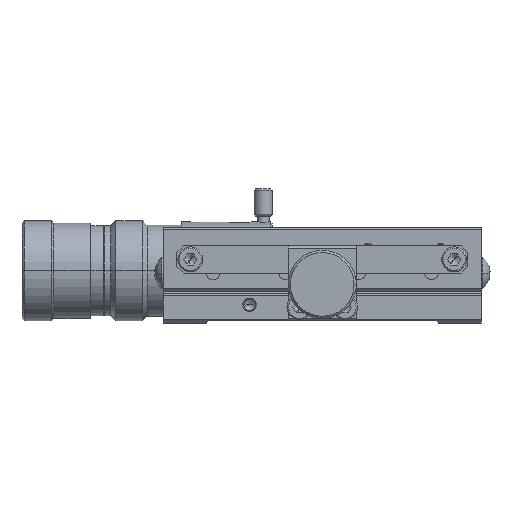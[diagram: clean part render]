
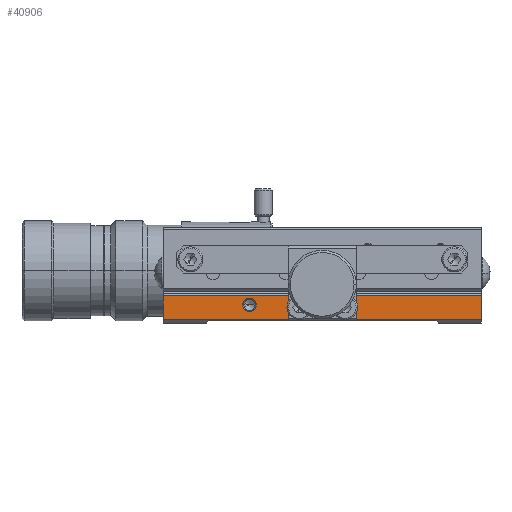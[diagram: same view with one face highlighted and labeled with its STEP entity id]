
A CAD part, left-side view. The second image highlights one B-rep face of the part: STEP entity #40906.
In plain terms, the highlighted planar face has unit normal (-1, 0, 0).
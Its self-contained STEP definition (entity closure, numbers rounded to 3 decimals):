
#29182 = CARTESIAN_POINT ( 'NONE',  ( -35., 17.5, 4. ) ) ;
#29225 = CARTESIAN_POINT ( 'NONE',  ( -35., 14.5, 4. ) ) ;
#29231 = DIRECTION ( 'NONE',  ( 0., -1., 0. ) ) ;
#29232 = DIRECTION ( 'NONE',  ( -1., 0., 0. ) ) ;
#29233 = CARTESIAN_POINT ( 'NONE',  ( -35., 16., 4. ) ) ;
#29234 = AXIS2_PLACEMENT_3D ( 'NONE', #29233, #29232, #29231 ) ;
#29235 = CIRCLE ( 'NONE', #29234, 1.5 ) ;
#30341 = CARTESIAN_POINT ( 'NONE',  ( -35., 7.5, 5.5 ) ) ;
#30342 = DIRECTION ( 'NONE',  ( 0., 0., 1. ) ) ;
#30343 = VECTOR ( 'NONE', #30342, 1000. ) ;
#30344 = CARTESIAN_POINT ( 'NONE',  ( -35., 7.5, 6. ) ) ;
#30345 = LINE ( 'NONE', #30344, #30343 ) ;
#30346 = CARTESIAN_POINT ( 'NONE',  ( -35., 7.5, 0.8 ) ) ;
#30347 = CARTESIAN_POINT ( 'NONE',  ( -35., 35., 0.8 ) ) ;
#30550 = DIRECTION ( 'NONE',  ( 0., 0., -1. ) ) ;
#30551 = VECTOR ( 'NONE', #30550, 1000. ) ;
#30552 = CARTESIAN_POINT ( 'NONE',  ( -35., 35., 6. ) ) ;
#30553 = LINE ( 'NONE', #30552, #30551 ) ;
#30574 = DIRECTION ( 'NONE',  ( 0., 0., -1. ) ) ;
#30575 = VECTOR ( 'NONE', #30574, 1000. ) ;
#30576 = CARTESIAN_POINT ( 'NONE',  ( -35., -35., 6. ) ) ;
#30577 = LINE ( 'NONE', #30576, #30575 ) ;
#30578 = CARTESIAN_POINT ( 'NONE',  ( -35., -35., 0.8 ) ) ;
#30579 = DIRECTION ( 'NONE',  ( 0., -1., 0. ) ) ;
#30580 = VECTOR ( 'NONE', #30579, 1000. ) ;
#30581 = CARTESIAN_POINT ( 'NONE',  ( -35., 35., 0.8 ) ) ;
#30582 = LINE ( 'NONE', #30581, #30580 ) ;
#30583 = CARTESIAN_POINT ( 'NONE',  ( -35., -7.5, 0.8 ) ) ;
#30584 = DIRECTION ( 'NONE',  ( 0., 0., 1. ) ) ;
#30585 = VECTOR ( 'NONE', #30584, 1000. ) ;
#30586 = CARTESIAN_POINT ( 'NONE',  ( -35., -7.5, 6. ) ) ;
#30587 = LINE ( 'NONE', #30586, #30585 ) ;
#30588 = CARTESIAN_POINT ( 'NONE',  ( -35., -7.5, 5.5 ) ) ;
#30589 = DIRECTION ( 'NONE',  ( 0., 1., 0. ) ) ;
#30590 = VECTOR ( 'NONE', #30589, 1000. ) ;
#30591 = CARTESIAN_POINT ( 'NONE',  ( -35., 35., 5.5 ) ) ;
#30592 = LINE ( 'NONE', #30591, #30590 ) ;
#30616 = DIRECTION ( 'NONE',  ( 0., -1., 0. ) ) ;
#30617 = DIRECTION ( 'NONE',  ( -1., 0., 0. ) ) ;
#30618 = AXIS2_PLACEMENT_3D ( 'NONE', #30620, #30617, #30616 ) ;
#30620 = CARTESIAN_POINT ( 'NONE',  ( -35., 35., 6. ) ) ;
#30621 = PLANE ( 'NONE',  #30618 ) ;
#30622 = FACE_OUTER_BOUND ( 'NONE', #40916, .T. ) ;
#30623 = FACE_BOUND ( 'NONE', #40909, .T. ) ;
#30632 = CARTESIAN_POINT ( 'NONE',  ( -35., 35., 6. ) ) ;
#30633 = DIRECTION ( 'NONE',  ( 0., -1., 0. ) ) ;
#30634 = VECTOR ( 'NONE', #30633, 1000. ) ;
#30635 = CARTESIAN_POINT ( 'NONE',  ( -35., 35., 6. ) ) ;
#30636 = LINE ( 'NONE', #30635, #30634 ) ;
#30637 = CARTESIAN_POINT ( 'NONE',  ( -35., -35., 6. ) ) ;
#30657 = DIRECTION ( 'NONE',  ( 0., -1., 0. ) ) ;
#30658 = VECTOR ( 'NONE', #30657, 1000. ) ;
#30659 = CARTESIAN_POINT ( 'NONE',  ( -35., 35., 0.8 ) ) ;
#30660 = LINE ( 'NONE', #30659, #30658 ) ;
#30664 = DIRECTION ( 'NONE',  ( 0., -1., 0. ) ) ;
#30665 = DIRECTION ( 'NONE',  ( -1., 0., 0. ) ) ;
#30666 = CARTESIAN_POINT ( 'NONE',  ( -35., 16., 4. ) ) ;
#30667 = AXIS2_PLACEMENT_3D ( 'NONE', #30666, #30665, #30664 ) ;
#30668 = CIRCLE ( 'NONE', #30667, 1.5 ) ;
#40204 = VERTEX_POINT ( 'NONE', #29182 ) ;
#40208 = EDGE_CURVE ( 'NONE', #40204, #40211, #29235, .T. ) ;
#40211 = VERTEX_POINT ( 'NONE', #29225 ) ;
#40747 = VERTEX_POINT ( 'NONE', #30347 ) ;
#40748 = VERTEX_POINT ( 'NONE', #30346 ) ;
#40749 = ORIENTED_EDGE ( 'NONE', *, *, #40750, .T. ) ;
#40750 = EDGE_CURVE ( 'NONE', #40748, #40751, #30345, .T. ) ;
#40751 = VERTEX_POINT ( 'NONE', #30341 ) ;
#40752 = ORIENTED_EDGE ( 'NONE', *, *, #40888, .F. ) ;
#40874 = EDGE_CURVE ( 'NONE', #40901, #40747, #30553, .T. ) ;
#40888 = EDGE_CURVE ( 'NONE', #40889, #40751, #30592, .T. ) ;
#40889 = VERTEX_POINT ( 'NONE', #30588 ) ;
#40890 = ORIENTED_EDGE ( 'NONE', *, *, #40891, .F. ) ;
#40891 = EDGE_CURVE ( 'NONE', #40892, #40889, #30587, .T. ) ;
#40892 = VERTEX_POINT ( 'NONE', #30583 ) ;
#40893 = ORIENTED_EDGE ( 'NONE', *, *, #40894, .T. ) ;
#40894 = EDGE_CURVE ( 'NONE', #40892, #40895, #30582, .T. ) ;
#40895 = VERTEX_POINT ( 'NONE', #30578 ) ;
#40896 = ORIENTED_EDGE ( 'NONE', *, *, #40897, .F. ) ;
#40897 = EDGE_CURVE ( 'NONE', #40898, #40895, #30577, .T. ) ;
#40898 = VERTEX_POINT ( 'NONE', #30637 ) ;
#40899 = ORIENTED_EDGE ( 'NONE', *, *, #40900, .F. ) ;
#40900 = EDGE_CURVE ( 'NONE', #40901, #40898, #30636, .T. ) ;
#40901 = VERTEX_POINT ( 'NONE', #30632 ) ;
#40902 = ORIENTED_EDGE ( 'NONE', *, *, #40874, .T. ) ;
#40906 = ADVANCED_FACE ( 'NONE', ( #30623, #30622 ), #30621, .T. ) ;
#40909 = EDGE_LOOP ( 'NONE', ( #40910, #40913 ) ) ;
#40910 = ORIENTED_EDGE ( 'NONE', *, *, #40912, .F. ) ;
#40912 = EDGE_CURVE ( 'NONE', #40211, #40204, #30668, .T. ) ;
#40913 = ORIENTED_EDGE ( 'NONE', *, *, #40208, .F. ) ;
#40916 = EDGE_LOOP ( 'NONE', ( #40918, #40749, #40752, #40890, #40893, #40896, #40899, #40902 ) ) ;
#40918 = ORIENTED_EDGE ( 'NONE', *, *, #40919, .T. ) ;
#40919 = EDGE_CURVE ( 'NONE', #40747, #40748, #30660, .T. ) ;
